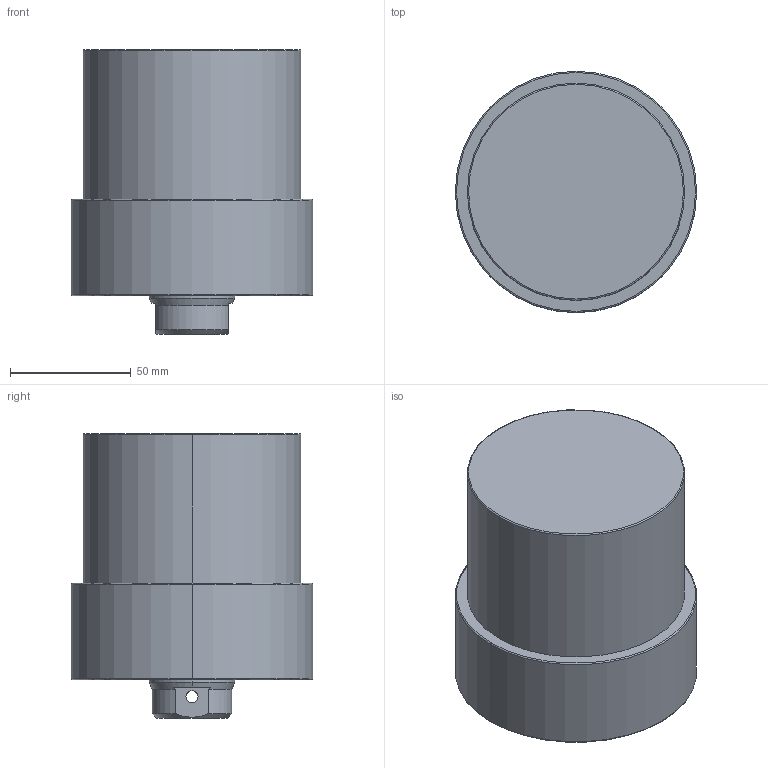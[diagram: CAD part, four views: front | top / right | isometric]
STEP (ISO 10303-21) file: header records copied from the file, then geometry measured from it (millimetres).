
FILE_DESCRIPTION (( 'STEP AP203' ), '1' );
FILE_NAME ('CLLU-090GB-040.STEP', '2020-01-11T00:55:58', ( '' ), ( '' ), 'SwSTEP 2.0', 'SolidWorks 2015', '' );
FILE_SCHEMA (( 'CONFIG_CONTROL_DESIGN' ));
Length unit declared in the file: millimetre
Products named in the file (1): CLLU-090GB-040
Bounding box: 100 x 100 x 118 mm (x, y, z)
Volume: 703886.8 mm3; surface area: 52502.6 mm2
Topology: 1 solids, 1 shells, 66 faces, 154 edges, 87 vertices
Faces by surface type: cylinder 26, cone 24, plane 10, torus 6
Entity records: 2029 total; most frequent: CARTESIAN_POINT 458, DIRECTION 342, ORIENTED_EDGE 288, EDGE_CURVE 144, AXIS2_PLACEMENT_3D 143, VERTEX_POINT 87, EDGE_LOOP 77, CIRCLE 76
